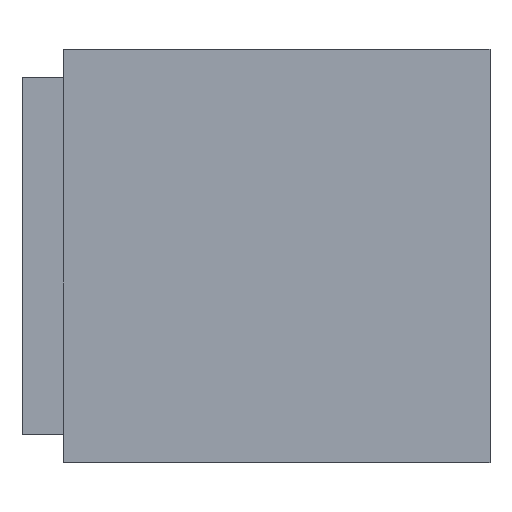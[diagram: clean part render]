
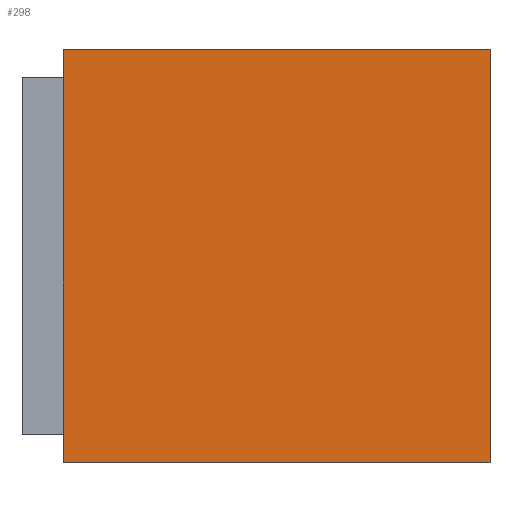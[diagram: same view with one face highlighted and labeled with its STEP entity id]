
A CAD part, top view. The second image highlights one B-rep face of the part: STEP entity #298.
In plain terms, the highlighted planar face has unit normal (0, 0, 1).
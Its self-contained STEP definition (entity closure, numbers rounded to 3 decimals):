
#159=CARTESIAN_POINT('',(-15.5,-15.,5.5));
#160=VERTEX_POINT('',#159);
#161=CARTESIAN_POINT('',(15.5,-15.,5.5));
#162=VERTEX_POINT('',#161);
#163=CARTESIAN_POINT('',(-15.5,15.,5.5));
#164=VERTEX_POINT('',#163);
#165=CARTESIAN_POINT('',(15.5,15.,5.5));
#166=VERTEX_POINT('',#165);
#167=DIRECTION('',(0.,1.,0.));
#168=VECTOR('',#167,30.);
#169=CARTESIAN_POINT('',(-15.5,-15.,5.5));
#170=LINE('',#169,#168);
#171=EDGE_CURVE('',#160,#164,#170,.T.);
#211=DIRECTION('',(0.,1.,0.));
#212=VECTOR('',#211,30.);
#213=CARTESIAN_POINT('',(15.5,-15.,5.5));
#214=LINE('',#213,#212);
#215=EDGE_CURVE('',#162,#166,#214,.T.);
#232=DIRECTION('',(1.,0.,0.));
#233=VECTOR('',#232,31.);
#234=CARTESIAN_POINT('',(-15.5,-15.,5.5));
#235=LINE('',#234,#233);
#236=EDGE_CURVE('',#160,#162,#235,.T.);
#254=DIRECTION('',(1.,0.,0.));
#255=VECTOR('',#254,31.);
#256=CARTESIAN_POINT('',(-15.5,15.,5.5));
#257=LINE('',#256,#255);
#258=EDGE_CURVE('',#164,#166,#257,.T.);
#287=ORIENTED_EDGE('',*,*,#236,.T.);
#288=ORIENTED_EDGE('',*,*,#215,.T.);
#289=ORIENTED_EDGE('',*,*,#258,.F.);
#290=ORIENTED_EDGE('',*,*,#171,.F.);
#291=EDGE_LOOP('',(#287,#288,#289,#290));
#292=FACE_OUTER_BOUND('',#291,.T.);
#293=CARTESIAN_POINT('',(-15.5,-15.,5.5));
#294=DIRECTION('',(0.,0.,1.));
#295=DIRECTION('',(1.,0.,0.));
#296=AXIS2_PLACEMENT_3D('',#293,#294,#295);
#297=PLANE('',#296);
#298=ADVANCED_FACE('',(#292),#297,.T.);
